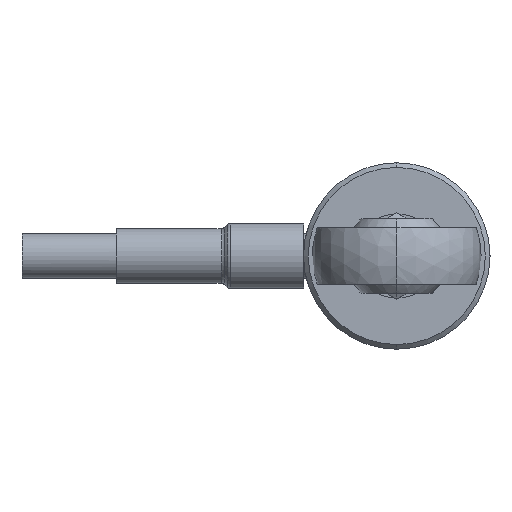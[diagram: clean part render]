
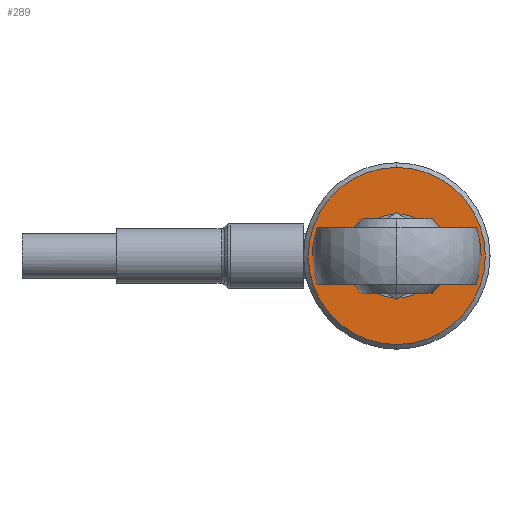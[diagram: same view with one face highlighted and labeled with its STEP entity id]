
A CAD part, left-side view. The second image highlights one B-rep face of the part: STEP entity #289.
In plain terms, the highlighted planar face has unit normal (-1, 0, 0).
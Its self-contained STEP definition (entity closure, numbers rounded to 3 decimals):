
#2 = CIRCLE ( 'NONE', #3795, 4.5 ) ;
#182 = CIRCLE ( 'NONE', #2632, 9.45 ) ;
#200 = DIRECTION ( 'NONE',  ( -1., 0., 0. ) ) ;
#289 = ADVANCED_FACE ( 'NONE', ( #3001, #4099 ), #1401, .F. ) ;
#295 = DIRECTION ( 'NONE',  ( -1., 0., 0. ) ) ;
#439 = AXIS2_PLACEMENT_3D ( 'NONE', #4093, #2444, #1742 ) ;
#488 = ORIENTED_EDGE ( 'NONE', *, *, #709, .F. ) ;
#493 = EDGE_LOOP ( 'NONE', ( #1736, #488 ) ) ;
#646 = EDGE_CURVE ( 'NONE', #3918, #1081, #1056, .T. ) ;
#696 = VERTEX_POINT ( 'NONE', #2856 ) ;
#709 = EDGE_CURVE ( 'NONE', #1081, #3918, #2, .T. ) ;
#923 = CARTESIAN_POINT ( 'NONE',  ( 0., 0., 0. ) ) ;
#952 = DIRECTION ( 'NONE',  ( 0., 0., -1. ) ) ;
#1056 = CIRCLE ( 'NONE', #1463, 4.5 ) ;
#1081 = VERTEX_POINT ( 'NONE', #3114 ) ;
#1336 = AXIS2_PLACEMENT_3D ( 'NONE', #923, #295, #952 ) ;
#1401 = PLANE ( 'NONE',  #439 ) ;
#1463 = AXIS2_PLACEMENT_3D ( 'NONE', #2752, #3070, #3802 ) ;
#1486 = CARTESIAN_POINT ( 'NONE',  ( 0., 0., -9.45 ) ) ;
#1561 = CARTESIAN_POINT ( 'NONE',  ( 0., 0., -4.5 ) ) ;
#1736 = ORIENTED_EDGE ( 'NONE', *, *, #646, .F. ) ;
#1742 = DIRECTION ( 'NONE',  ( 0., 0., -1. ) ) ;
#2304 = ORIENTED_EDGE ( 'NONE', *, *, #3435, .T. ) ;
#2347 = DIRECTION ( 'NONE',  ( 0., 0., -1. ) ) ;
#2438 = EDGE_CURVE ( 'NONE', #696, #3241, #2592, .T. ) ;
#2444 = DIRECTION ( 'NONE',  ( 1., 0., 0. ) ) ;
#2592 = CIRCLE ( 'NONE', #1336, 9.45 ) ;
#2632 = AXIS2_PLACEMENT_3D ( 'NONE', #3697, #3981, #2347 ) ;
#2752 = CARTESIAN_POINT ( 'NONE',  ( 0., 0., 0. ) ) ;
#2856 = CARTESIAN_POINT ( 'NONE',  ( 0., 0., 9.45 ) ) ;
#3001 = FACE_BOUND ( 'NONE', #493, .T. ) ;
#3070 = DIRECTION ( 'NONE',  ( -1., 0., 0. ) ) ;
#3114 = CARTESIAN_POINT ( 'NONE',  ( 0., 0., 4.5 ) ) ;
#3181 = CARTESIAN_POINT ( 'NONE',  ( 0., 0., 0. ) ) ;
#3241 = VERTEX_POINT ( 'NONE', #1486 ) ;
#3250 = ORIENTED_EDGE ( 'NONE', *, *, #2438, .T. ) ;
#3435 = EDGE_CURVE ( 'NONE', #3241, #696, #182, .T. ) ;
#3697 = CARTESIAN_POINT ( 'NONE',  ( 0., 0., 0. ) ) ;
#3795 = AXIS2_PLACEMENT_3D ( 'NONE', #3181, #200, #4153 ) ;
#3802 = DIRECTION ( 'NONE',  ( 0., 0., -1. ) ) ;
#3918 = VERTEX_POINT ( 'NONE', #1561 ) ;
#3981 = DIRECTION ( 'NONE',  ( -1., 0., 0. ) ) ;
#4093 = CARTESIAN_POINT ( 'NONE',  ( 0., 0., 0. ) ) ;
#4099 = FACE_OUTER_BOUND ( 'NONE', #4234, .T. ) ;
#4153 = DIRECTION ( 'NONE',  ( 0., 0., -1. ) ) ;
#4234 = EDGE_LOOP ( 'NONE', ( #2304, #3250 ) ) ;
